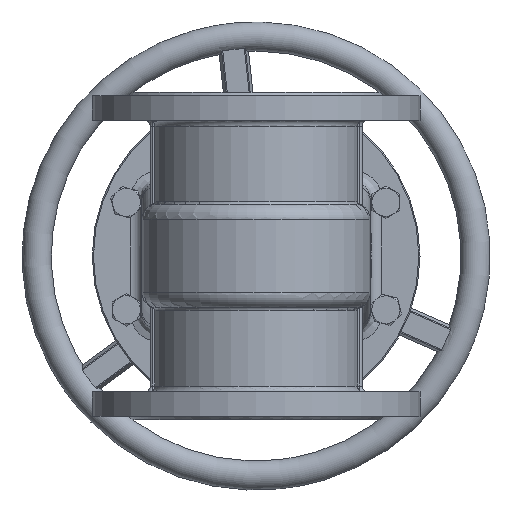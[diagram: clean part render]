
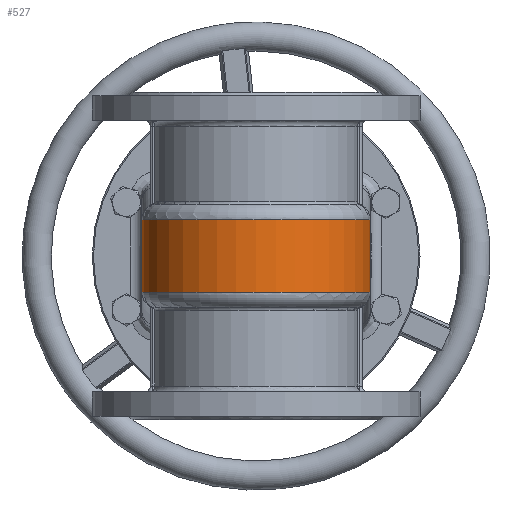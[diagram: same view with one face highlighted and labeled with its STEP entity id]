
A CAD part, front view. The second image highlights one B-rep face of the part: STEP entity #527.
In plain terms, the highlighted cylindrical face has radius 97.5 mm (diameter 195 mm), a partial arc.
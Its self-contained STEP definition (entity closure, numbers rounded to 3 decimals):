
#527=ADVANCED_FACE('',(#11189),#11191,.T.);
#11189=FACE_BOUND('',#11190,.T.);
#11190=EDGE_LOOP('',(#22515,#22516,#22517,#22518));
#11191=CYLINDRICAL_SURFACE('',#11192,97.5);
#11192=AXIS2_PLACEMENT_3D('',#11193,#11194,#11195);
#11193=CARTESIAN_POINT('',(0.,0.,0.));
#11194=DIRECTION('',(0.,0.,-1.));
#11195=DIRECTION('',(1.,0.,0.));
#22515=ORIENTED_EDGE('',*,*,#27818,.F.);
#22516=ORIENTED_EDGE('',*,*,#27883,.T.);
#22517=ORIENTED_EDGE('',*,*,#27884,.T.);
#22518=ORIENTED_EDGE('',*,*,#27885,.F.);
#27818=EDGE_CURVE('',#30600,#30602,#30603,.T.);
#27883=EDGE_CURVE('',#30600,#30710,#30711,.T.);
#27884=EDGE_CURVE('',#30710,#30712,#30713,.T.);
#27885=EDGE_CURVE('',#30602,#30712,#30714,.T.);
#30600=VERTEX_POINT('',#35666);
#30602=VERTEX_POINT('',#35671);
#30603=CIRCLE('',#35672,97.5);
#30710=VERTEX_POINT('',#36344);
#30711=LINE('',#36345,#36346);
#30712=VERTEX_POINT('',#36348);
#30713=CIRCLE('',#36349,97.5);
#30714=LINE('',#36353,#36354);
#35666=CARTESIAN_POINT('',(97.5,0.,-31.));
#35671=CARTESIAN_POINT('',(-97.5,0.,-31.));
#35672=AXIS2_PLACEMENT_3D('',#35673,#35674,#35675);
#35673=CARTESIAN_POINT('',(0.,0.,-31.));
#35674=DIRECTION('',(0.,0.,-1.));
#35675=DIRECTION('',(1.,0.,0.));
#36344=CARTESIAN_POINT('',(97.5,0.,31.));
#36345=CARTESIAN_POINT('',(97.5,0.,-31.));
#36346=VECTOR('',#36347,1.);
#36347=DIRECTION('',(0.,0.,1.));
#36348=CARTESIAN_POINT('',(-97.5,0.,31.));
#36349=AXIS2_PLACEMENT_3D('',#36350,#36351,#36352);
#36350=CARTESIAN_POINT('',(0.,0.,31.));
#36351=DIRECTION('',(0.,0.,-1.));
#36352=DIRECTION('',(1.,0.,0.));
#36353=CARTESIAN_POINT('',(-97.5,0.,-31.));
#36354=VECTOR('',#36355,1.);
#36355=DIRECTION('',(0.,0.,1.));
